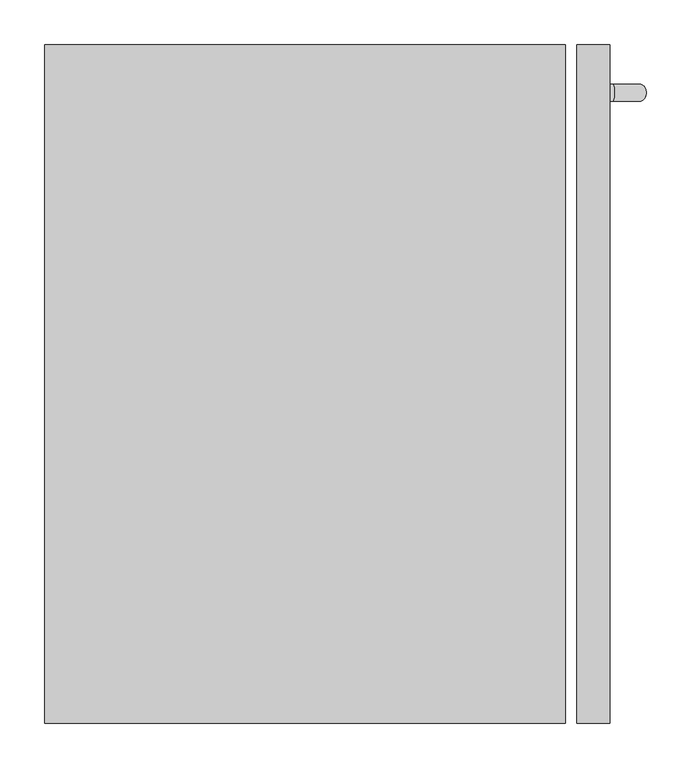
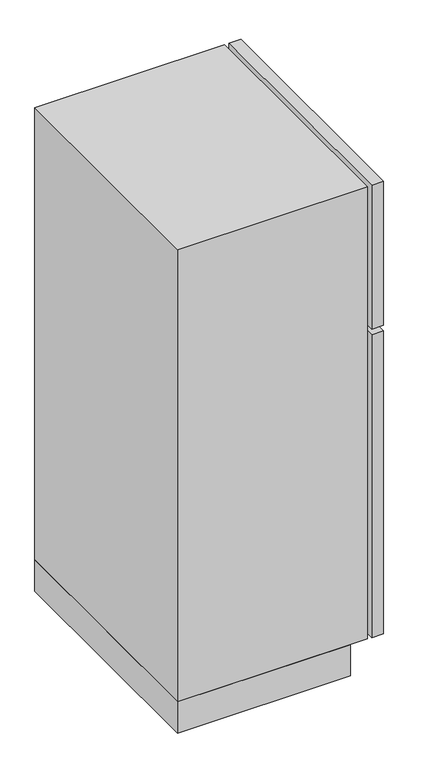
"""IFC4 building model written with IfcOpenShell, lengths in millimetres: proxy geometry, Refridgerator_with_freezer_on_top_198 : Refridgerator_with_freezer_on_top_198."""

from ifc_helpers import new_model, si_unit, point, frame, origin, origin_with_axes, place, context, project, spatial, polyline, circle_curve, ellipse_curve, trimmed, outline, extrude, source, transform, mapped, element, save
from ifc_brep_helpers import plane_surface, cylinder_surface, revolved_surface, advanced_brep


def specialty_equipment_692675cb(model_context):
    return source(origin(), model_context, "Body", "SolidModel", [
        extrude(outline(polyline([(533.5524132, 0.0), (0.0, 0.0), (0.0, 762.0), (533.5524132, 762.0), (533.5524132, 0.0)])), origin_with_axes(), (0.0, 0.0, 1.0), 101.6203234),
        advanced_brep(
        [(598.2340032, 0.0, 1088.0107259), (635.0, 0.0, 1088.0107259), (635.0, 762.0, 1088.0107259), (598.2340032, 762.0, 1088.0107259), (598.2340032, 0.0, 101.6203234), (598.2340032, 762.0, 101.6203234), (635.0, 762.0, 101.6203234), (635.0, 0.0, 101.6203234), (635.0, 698.5, 780.210913), (635.0, 698.5, 786.9065599), (635.0, 717.55, 786.9065599), (635.0, 717.55, 780.210913), (635.0, 698.5, 1021.1079292), (635.0, 698.5, 1027.6037002), (635.0, 717.55, 1027.6037002), (635.0, 717.55, 1021.1079292), (640.1888649, 698.5, 781.946106), (670.1618137, 698.5, 823.573725), (670.1618137, 698.5, 988.673725), (639.5127, 698.5, 1026.6312252), (638.175, 698.5, 1020.423725), (663.8118137, 698.5, 988.673725), (663.8118137, 698.5, 823.573725), (638.175, 698.5, 787.9683023), (638.175, 717.55, 787.9683023), (663.8118137, 717.55, 823.573725), (663.8118137, 717.55, 988.673725), (638.175, 717.55, 1020.423725), (639.5127, 717.55, 1026.6312252), (670.1618137, 717.55, 988.673725), (670.1618137, 717.55, 823.573725), (640.1888649, 717.55, 781.946106)],
        [
            (0, 1),
            (1, 2),
            (2, 3),
            (3, 0),
            (4, 5),
            (5, 6),
            (6, 7),
            (7, 4),
            (0, 4),
            (7, 1),
            (6, 2),
            (8, 9),
            (9, 10),
            (10, 11),
            (11, 8, ellipse_curve(frame((635.0, 708.025, 784.814462), z_axis=(-1.0, 0.0, 0.0), x_axis=(0.0, 0.0, -1.0)), 11.048256, 10.477916)),
            (12, 13),
            (13, 14, ellipse_curve(frame((635.0, 708.025, 1023.1375746), z_axis=(-1.0, 0.0, 0.0), x_axis=(0.0, 0.0, -1.0)), 10.7184477, 10.477916)),
            (14, 15),
            (15, 12),
            (5, 3),
            (16, 17, circle_curve(frame((626.2682958, 698.5, 823.573725), z_axis=(0.0, -1.0, 0.0), x_axis=(0.31714407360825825, 0.0, -0.9483773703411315)), 43.8935178)),
            (17, 18),
            (18, 19, circle_curve(frame((631.3329585, 698.5, 988.673725), z_axis=(0.0, -1.0, 0.0), x_axis=(1.0, 0.0, 0.0)), 38.8288551)),
            (19, 13),
            (12, 20),
            (20, 21, circle_curve(frame((631.3329585, 698.5, 988.673725), z_axis=(0.0, 1.0, 0.0), x_axis=(1.0, 0.0, 0.0)), 32.4788551)),
            (21, 22),
            (22, 23, circle_curve(frame((626.2682958, 698.5, 823.573725), z_axis=(0.0, 1.0, 0.0), x_axis=(0.31714407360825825, 0.0, -0.9483773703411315)), 37.5435178)),
            (23, 9),
            (8, 16),
            (23, 24),
            (24, 10),
            (24, 25, circle_curve(frame((626.2682958, 717.55, 823.573725), z_axis=(0.0, -1.0, 0.0), x_axis=(0.31714407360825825, 0.0, -0.9483773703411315)), 37.5435178)),
            (25, 26),
            (26, 27, circle_curve(frame((631.3329585, 717.55, 988.673725), z_axis=(0.0, -1.0, 0.0), x_axis=(1.0, 0.0, 0.0)), 32.4788551)),
            (27, 15),
            (14, 28),
            (28, 29, circle_curve(frame((631.3329585, 717.55, 988.673725), z_axis=(0.0, 1.0, 0.0), x_axis=(1.0, 0.0, 0.0)), 38.8288551)),
            (29, 30),
            (30, 31, circle_curve(frame((626.2682958, 717.55, 823.573725), z_axis=(0.0, 1.0, 0.0), x_axis=(0.31714407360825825, 0.0, -0.9483773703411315)), 43.8935178)),
            (31, 11),
            (31, 16, circle_curve(frame((638.804245, 708.025, 786.0866284), z_axis=(-0.9483773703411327, 0.0, -0.31714407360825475), x_axis=(0.31714407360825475, 0.0, -0.9483773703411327)), 10.477916)),
            (22, 25),
            (30, 17, circle_curve(frame((665.795912, 708.025, 823.573725), z_axis=(0.0, 0.0, -1.0), x_axis=(1.0, 0.0, 0.0)), 10.477916)),
            (21, 26),
            (29, 18, circle_curve(frame((665.795912, 708.025, 988.673725), z_axis=(0.0, 0.0, -1.0), x_axis=(1.0, 0.0, 0.0)), 10.477916)),
            (20, 27),
            (28, 19, circle_curve(frame((638.5929729, 708.025, 1022.3632983), z_axis=(0.9775590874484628, 0.0, -0.2106614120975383), x_axis=(0.2106614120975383, 0.0, 0.9775590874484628)), 10.477916)),
        ],
        [
            plane_surface(frame((635.0, 0.0, 1088.0107259), z_axis=(0.0, 0.0, 1.0), x_axis=(1.0, 0.0, 0.0))),
            plane_surface(frame((635.0, 0.0, 101.6203234), z_axis=(0.0, 0.0, -1.0), x_axis=(-1.0, 0.0, 0.0))),
            plane_surface(frame((598.2340032, 0.0, 1088.0107259), z_axis=(0.0, -1.0, 0.0), x_axis=(0.0, 0.0, -1.0))),
            plane_surface(frame((635.0, 0.0, 1088.0107259), z_axis=(1.0, 0.0, 0.0), x_axis=(0.0, 0.0, -1.0))),
            plane_surface(frame((635.0, 762.0, 1088.0107259), z_axis=(0.0, 1.0, 0.0), x_axis=(0.0, 0.0, -1.0))),
            plane_surface(frame((598.2340032, 762.0, 1088.0107259), z_axis=(-1.0, 0.0, 0.0), x_axis=(0.0, 0.0, -1.0))),
            plane_surface(frame((628.1444723, 698.5, 777.9183762), z_axis=(0.0, -1.0000000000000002, 0.0), x_axis=(0.9483773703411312, 0.0, 0.3171440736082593))),
            plane_surface(frame((626.1306074, 698.5, 783.9405725), z_axis=(-0.3171440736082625, 0.0, 0.9483773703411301), x_axis=(0.9483773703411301, 0.0, 0.3171440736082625))),
            plane_surface(frame((626.1306074, 717.55, 783.9405725), z_axis=(0.0, 1.0000000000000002, 0.0), x_axis=(0.9483773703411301, 0.0, 0.3171440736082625))),
            cylinder_surface(frame((626.7598524, 708.025, 782.0588986), z_axis=(-0.9483773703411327, 0.0, -0.31714407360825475), x_axis=(0.31714407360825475, 0.0, -0.9483773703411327)), 10.477916),
            revolved_surface(polyline([(638.1749999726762, 698.5, 787.9683023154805), (638.1749999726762, 717.55, 787.9683023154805)]), (626.2682958, 0.0, 823.573725), (0.0, -1.0, 0.0)),
            revolved_surface(trimmed(ellipse_curve(frame((638.804245, 708.025, 786.0866284), z_axis=(-0.9483773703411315, 0.0, -0.3171440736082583), x_axis=(0.3171440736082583, 0.0, -0.9483773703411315)), 10.477916, 10.477916), [point((640.1888649, 717.55, 781.946106))], [point((640.1888649, 698.5, 781.946106))], True, "CARTESIAN"), (626.2682958, 0.0, 823.573725), (0.0, -1.0, 0.0)),
            plane_surface(frame((663.8118137, 698.5, 823.573725), z_axis=(-1.0, 0.0, 0.0), x_axis=(0.0, 0.0, 1.0))),
            cylinder_surface(frame((665.795912, 708.025, 823.573725), z_axis=(0.0, 0.0, -1.0), x_axis=(1.0, 0.0, 0.0)), 10.477916),
            revolved_surface(polyline([(663.8118136, 698.5, 988.673725), (663.8118136, 717.55, 988.673725)]), (631.3329585, 0.0, 988.673725), (0.0, -1.0, 0.0)),
            revolved_surface(trimmed(ellipse_curve(frame((665.795912, 708.025, 988.673725), z_axis=(0.0, 0.0, -1.0), x_axis=(1.0, 0.0, 0.0)), 10.477916, 10.477916), [point((670.1618137, 717.55, 988.673725))], [point((670.1618137, 698.5, 988.673725))], True, "CARTESIAN"), (631.3329585, 0.0, 988.673725), (0.0, -1.0, 0.0)),
            plane_surface(frame((638.175, 698.5, 1020.423725), z_axis=(-0.2106614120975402, 0.0, -0.9775590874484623), x_axis=(-0.9775590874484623, 0.0, 0.2106614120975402))),
            cylinder_surface(frame((638.5929729, 708.025, 1022.3632983), z_axis=(0.9775590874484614, 0.0, -0.21066141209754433), x_axis=(0.21066141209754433, 0.0, 0.9775590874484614)), 10.477916),
        ],
        [
            (0, [[1, 2, 3, 4]]),
            (1, [[5, 6, 7, 8]]),
            (2, [[-1, 9, -8, 10]]),
            (3, [[-2, -10, -7, 11], [12, 13, 14, 15], [16, 17, 18, 19]]),
            (4, [[-3, -11, -6, 20]]),
            (5, [[-4, -20, -5, -9]]),
            (6, [[21, 22, 23, 24, -16, 25, 26, 27, 28, 29, -12, 30]]),
            (7, [[31, 32, -13, -29]]),
            (8, [[33, 34, 35, 36, -18, 37, 38, 39, 40, 41, -14, -32]]),
            (9, [[42, -30, -15, -41]]),
            (10, [[-28, 43, -33, -31]]),
            (11, [[-21, -42, -40, 44]]),
            (12, [[-27, 45, -34, -43]]),
            (13, [[-22, -44, -39, 46]]),
            (14, [[-26, 47, -35, -45]]),
            (15, [[-23, -46, -38, 48]]),
            (16, [[-47, -25, -19, -36]]),
            (17, [[-48, -37, -17, -24]]),
        ],
    ),
        advanced_brep(
        [(598.2340032, 0.0, 1574.4759869), (635.0, 0.0, 1574.4759869), (635.0, 762.0, 1574.4759869), (598.2340032, 762.0, 1574.4759869), (598.2340032, 0.0, 1105.0754922), (598.2340032, 762.0, 1105.0754922), (635.0, 762.0, 1105.0754922), (635.0, 0.0, 1105.0754922), (635.0, 698.5, 1156.3976362), (635.0, 698.5, 1163.0932831), (635.0, 717.55, 1163.0932831), (635.0, 717.55, 1156.3976362), (635.0, 698.5, 1397.2946523), (635.0, 698.5, 1403.7904234), (635.0, 717.55, 1403.7904234), (635.0, 717.55, 1397.2946523), (640.1888649, 698.5, 1158.1328291), (670.1618137, 698.5, 1199.7604482), (670.1618137, 698.5, 1364.8604482), (639.5127, 698.5, 1402.8179484), (638.175, 698.5, 1396.6104482), (663.8118137, 698.5, 1364.8604482), (663.8118137, 698.5, 1199.7604482), (638.175, 698.5, 1164.1550255), (638.175, 717.55, 1164.1550255), (663.8118137, 717.55, 1199.7604482), (663.8118137, 717.55, 1364.8604482), (638.175, 717.55, 1396.6104482), (639.5127, 717.55, 1402.8179484), (670.1618137, 717.55, 1364.8604482), (670.1618137, 717.55, 1199.7604482), (640.1888649, 717.55, 1158.1328291)],
        [
            (0, 1),
            (1, 2),
            (2, 3),
            (3, 0),
            (4, 5),
            (5, 6),
            (6, 7),
            (7, 4),
            (0, 4),
            (7, 1),
            (6, 2),
            (8, 9),
            (9, 10),
            (10, 11),
            (11, 8, ellipse_curve(frame((635.0, 708.025, 1161.0011852), z_axis=(-1.0, 0.0, 0.0), x_axis=(0.0, 0.0, -1.0)), 11.048256, 10.477916)),
            (12, 13),
            (13, 14, ellipse_curve(frame((635.0, 708.025, 1399.3242977), z_axis=(-1.0, 0.0, 0.0), x_axis=(0.0, 0.0, -0.9999999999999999)), 10.7184477, 10.477916)),
            (14, 15),
            (15, 12),
            (5, 3),
            (16, 17, circle_curve(frame((626.2682958, 698.5, 1199.7604482), z_axis=(0.0, -1.0, 0.0), x_axis=(0.3171440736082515, 0.0, -0.9483773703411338)), 43.8935178)),
            (17, 18),
            (18, 19, circle_curve(frame((631.3329585, 698.5, 1364.8604482), z_axis=(0.0, -1.0, 0.0), x_axis=(1.0, 0.0, 0.0)), 38.8288551)),
            (19, 13),
            (12, 20),
            (20, 21, circle_curve(frame((631.3329585, 698.5, 1364.8604482), z_axis=(0.0, 1.0, 0.0), x_axis=(1.0, 0.0, 0.0)), 32.4788551)),
            (21, 22),
            (22, 23, circle_curve(frame((626.2682958, 698.5, 1199.7604482), z_axis=(0.0, 1.0, 0.0), x_axis=(0.3171440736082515, 0.0, -0.9483773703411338)), 37.5435178)),
            (23, 9),
            (8, 16),
            (23, 24),
            (24, 10),
            (24, 25, circle_curve(frame((626.2682958, 717.55, 1199.7604482), z_axis=(0.0, -1.0, 0.0), x_axis=(0.3171440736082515, 0.0, -0.9483773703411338)), 37.5435178)),
            (25, 26),
            (26, 27, circle_curve(frame((631.3329585, 717.55, 1364.8604482), z_axis=(0.0, -1.0, 0.0), x_axis=(1.0, 0.0, 0.0)), 32.4788551)),
            (27, 15),
            (14, 28),
            (28, 29, circle_curve(frame((631.3329585, 717.55, 1364.8604482), z_axis=(0.0, 1.0, 0.0), x_axis=(1.0, 0.0, 0.0)), 38.8288551)),
            (29, 30),
            (30, 31, circle_curve(frame((626.2682958, 717.55, 1199.7604482), z_axis=(0.0, 1.0, 0.0), x_axis=(0.3171440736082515, 0.0, -0.9483773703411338)), 43.8935178)),
            (31, 11),
            (31, 16, circle_curve(frame((638.804245, 708.025, 1162.2733515), z_axis=(-0.9483773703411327, 0.0, -0.317144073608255), x_axis=(0.317144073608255, 0.0, -0.9483773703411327)), 10.477916)),
            (22, 25),
            (30, 17, circle_curve(frame((665.795912, 708.025, 1199.7604482), z_axis=(0.0, 0.0, -1.0), x_axis=(1.0, 0.0, 0.0)), 10.477916)),
            (21, 26),
            (29, 18, circle_curve(frame((665.795912, 708.025, 1364.8604482), z_axis=(0.0, 0.0, -1.0), x_axis=(1.0, 0.0, 0.0)), 10.477916)),
            (20, 27),
            (28, 19, circle_curve(frame((638.5929729, 708.025, 1398.5500215), z_axis=(0.9775590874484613, 0.0, -0.21066141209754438), x_axis=(0.21066141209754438, 0.0, 0.9775590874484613)), 10.477916)),
        ],
        [
            plane_surface(frame((635.0, 0.0, 1574.4759869), z_axis=(0.0, 0.0, 1.0), x_axis=(1.0, 0.0, 0.0))),
            plane_surface(frame((635.0, 0.0, 1105.0754922), z_axis=(0.0, 0.0, -1.0), x_axis=(-1.0, 0.0, 0.0))),
            plane_surface(frame((598.2340032, 0.0, 1574.4759869), z_axis=(0.0, -1.0, 0.0), x_axis=(0.0, 0.0, -1.0))),
            plane_surface(frame((635.0, 0.0, 1574.4759869), z_axis=(1.0, 0.0, 0.0), x_axis=(0.0, 0.0, -1.0))),
            plane_surface(frame((635.0, 762.0, 1574.4759869), z_axis=(0.0, 1.0, 0.0), x_axis=(0.0, 0.0, -1.0))),
            plane_surface(frame((598.2340032, 762.0, 1574.4759869), z_axis=(-1.0, 0.0, 0.0), x_axis=(0.0, 0.0, -1.0))),
            plane_surface(frame((628.1444723, 698.5, 1154.1050994), z_axis=(0.0, -1.0000000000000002, 0.0), x_axis=(0.9483773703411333, 0.0, 0.3171440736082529))),
            plane_surface(frame((626.1306074, 698.5, 1160.1272957), z_axis=(-0.3171440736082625, 0.0, 0.9483773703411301), x_axis=(0.9483773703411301, 0.0, 0.3171440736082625))),
            plane_surface(frame((626.1306074, 717.55, 1160.1272957), z_axis=(0.0, 1.0000000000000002, 0.0), x_axis=(0.9483773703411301, 0.0, 0.3171440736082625))),
            cylinder_surface(frame((626.7598524, 708.025, 1158.2456218), z_axis=(-0.9483773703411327, 0.0, -0.317144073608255), x_axis=(0.317144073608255, 0.0, -0.9483773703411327)), 10.477916),
            revolved_surface(polyline([(638.1749999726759, 698.5, 1164.1550255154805), (638.1749999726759, 717.55, 1164.1550255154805)]), (626.2682958, 0.0, 1199.7604482), (0.0, -1.0, 0.0)),
            revolved_surface(trimmed(ellipse_curve(frame((638.804245, 708.025, 1162.2733515), z_axis=(-0.9483773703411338, 0.0, -0.3171440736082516), x_axis=(0.3171440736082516, 0.0, -0.9483773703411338)), 10.477916, 10.477916), [point((640.1888649, 717.55, 1158.1328291))], [point((640.1888649, 698.5, 1158.1328291))], True, "CARTESIAN"), (626.2682958, 0.0, 1199.7604482), (0.0, -1.0, 0.0)),
            plane_surface(frame((663.8118137, 698.5, 1199.7604482), z_axis=(-1.0, 0.0, 0.0), x_axis=(0.0, 0.0, 1.0))),
            cylinder_surface(frame((665.795912, 708.025, 1199.7604482), z_axis=(0.0, 0.0, -1.0), x_axis=(1.0, 0.0, 0.0)), 10.477916),
            revolved_surface(polyline([(663.8118136, 698.5, 1364.8604482), (663.8118136, 717.55, 1364.8604482)]), (631.3329585, 0.0, 1364.8604482), (0.0, -1.0, 0.0)),
            revolved_surface(trimmed(ellipse_curve(frame((665.795912, 708.025, 1364.8604482), z_axis=(0.0, 0.0, -1.0), x_axis=(1.0, 0.0, 0.0)), 10.477916, 10.477916), [point((670.1618137, 717.55, 1364.8604482))], [point((670.1618137, 698.5, 1364.8604482))], True, "CARTESIAN"), (631.3329585, 0.0, 1364.8604482), (0.0, -1.0, 0.0)),
            plane_surface(frame((638.175, 698.5, 1396.6104482), z_axis=(-0.2106614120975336, 0.0, -0.9775590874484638), x_axis=(-0.9775590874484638, 0.0, 0.2106614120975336))),
            cylinder_surface(frame((638.5929729, 708.025, 1398.5500215), z_axis=(0.9775590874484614, 0.0, -0.2106614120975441), x_axis=(0.2106614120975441, 0.0, 0.9775590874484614)), 10.477916),
        ],
        [
            (0, [[1, 2, 3, 4]]),
            (1, [[5, 6, 7, 8]]),
            (2, [[-1, 9, -8, 10]]),
            (3, [[-2, -10, -7, 11], [12, 13, 14, 15], [16, 17, 18, 19]]),
            (4, [[-3, -11, -6, 20]]),
            (5, [[-4, -20, -5, -9]]),
            (6, [[21, 22, 23, 24, -16, 25, 26, 27, 28, 29, -12, 30]]),
            (7, [[31, 32, -13, -29]]),
            (8, [[33, 34, 35, 36, -18, 37, 38, 39, 40, 41, -14, -32]]),
            (9, [[42, -30, -15, -41]]),
            (10, [[-28, 43, -33, -31]]),
            (11, [[-21, -42, -40, 44]]),
            (12, [[-27, 45, -34, -43]]),
            (13, [[-22, -44, -39, 46]]),
            (14, [[-26, 47, -35, -45]]),
            (15, [[-23, -46, -38, 48]]),
            (16, [[-47, -25, -19, -36]]),
            (17, [[-48, -37, -17, -24]]),
        ],
    ),
        extrude(outline(polyline([(585.3422801, 0.0), (0.0, 0.0), (0.0, 762.0), (585.3422801, 762.0), (585.3422801, 0.0)])), frame((0.0, 0.0, 101.6203234), z_axis=(0.0, 0.0, 1.0), x_axis=(1.0, 0.0, 0.0)), (0.0, 0.0, 1.0), 1472.8556636),
    ])


if __name__ == "__main__":
    model = new_model("IFC4")
    model_context = context("Model", 3, world=origin())
    ifc_project = project(units=[si_unit("LENGTHUNIT", "METRE", prefix="MILLI")], contexts=[model_context])
    site = spatial("IfcSite", under=ifc_project)
    building = spatial("IfcBuilding", under=site)
    placement = place(None, origin())
    specialty_equipment_shape = specialty_equipment_692675cb(model_context)
    element("IfcBuildingElementProxy", 1, Name="Refridgerator_with_freezer_on_top_198 : Refridgerator_with_freezer_on_top_198", ObjectType="Refridgerator_with_freezer_on_top_198 : Refridgerator_with_freezer_on_top_198", at=placement, inside=building, context=model_context, shape_type="MappedRepresentation", body=[
        mapped(specialty_equipment_shape, transform((0.0, 0.0, 0.0), x_axis=(1.0, 0.0, 0.0), y_axis=(0.0, 1.0, 0.0), z_axis=(0.0, 0.0, 1.0))),
    ])
    save(model, "model.ifc")
